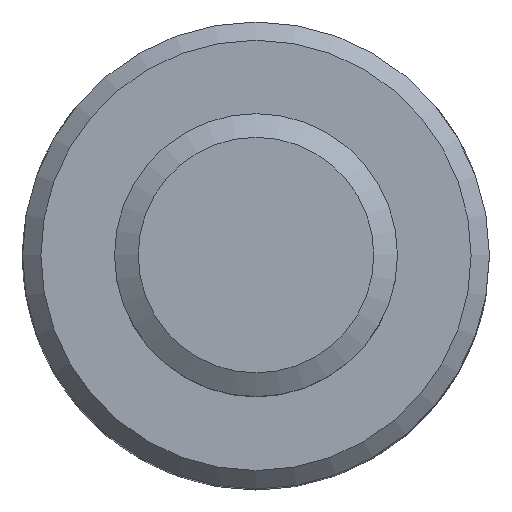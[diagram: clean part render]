
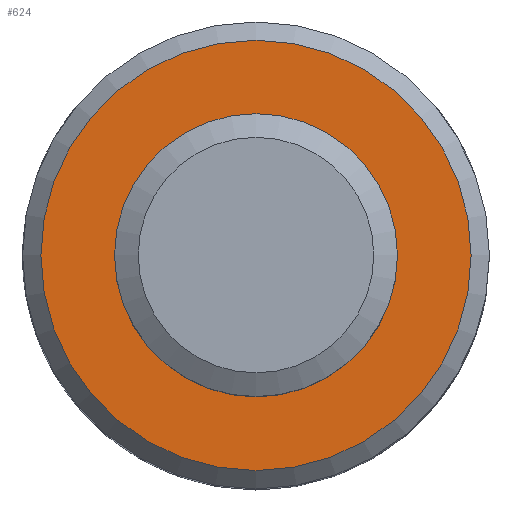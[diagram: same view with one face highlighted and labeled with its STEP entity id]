
A CAD part, top view. The second image highlights one B-rep face of the part: STEP entity #624.
In plain terms, the highlighted planar face has unit normal (0, 0, 1).
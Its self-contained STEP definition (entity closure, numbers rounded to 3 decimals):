
#575=FACE_BOUND('',#705,.T.);
#576=FACE_BOUND('',#706,.T.);
#624=ADVANCED_FACE('',(#575,#576),#661,.T.);
#661=PLANE('',#1700);
#705=EDGE_LOOP('',(#781));
#706=EDGE_LOOP('',(#782));
#781=ORIENTED_EDGE('',*,*,#1457,.F.);
#782=ORIENTED_EDGE('',*,*,#1456,.F.);
#1230=VERTEX_POINT('',#1924);
#1231=VERTEX_POINT('',#1927);
#1456=EDGE_CURVE('',#1230,#1230,#1682,.T.);
#1457=EDGE_CURVE('',#1231,#1231,#1683,.T.);
#1682=CIRCLE('',#1697,4.);
#1683=CIRCLE('',#1699,6.082);
#1697=AXIS2_PLACEMENT_3D('',#1923,#1770,#1771);
#1699=AXIS2_PLACEMENT_3D('',#1926,#1774,#1775);
#1700=AXIS2_PLACEMENT_3D('',#1928,#1776,#1777);
#1770=DIRECTION('',(0.,0.,1.));
#1771=DIRECTION('',(0.5,0.866,0.));
#1774=DIRECTION('',(0.,0.,-1.));
#1775=DIRECTION('',(-0.5,-0.866,0.));
#1776=DIRECTION('',(0.,0.,1.));
#1777=DIRECTION('',(-0.5,-0.866,0.));
#1923=CARTESIAN_POINT('',(0.,0.,0.));
#1924=CARTESIAN_POINT('',(2.,3.464,0.));
#1926=CARTESIAN_POINT('',(0.,0.,0.));
#1927=CARTESIAN_POINT('',(-3.041,-5.267,0.));
#1928=CARTESIAN_POINT('',(0.,0.,0.));
